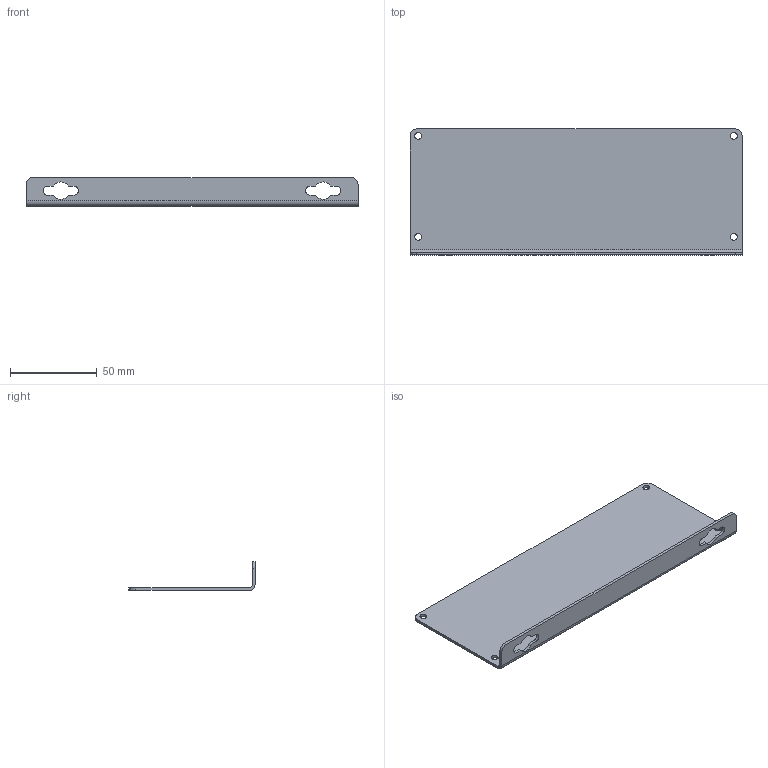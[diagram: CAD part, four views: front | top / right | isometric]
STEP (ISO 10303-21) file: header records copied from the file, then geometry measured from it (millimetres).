
FILE_DESCRIPTION(/* description */ (''),/* implementation_level */ '2;1');
FILE_NAME(/* name */ 'E:\Dutton\Manufacturing\drawings\Web Drawings\1455\1455 Flanges\STEP''s\1455UF.stp',/* time_stamp */ '2022-01-14T09:22:03-05:00',/* author */ ('tfoster'),/* organization */ (''),/* preprocessor_version */ 'ST-DEVELOPER v18.1',/* originating_system */ 'Autodesk Inventor 2022',/* authorisation */ '');
FILE_SCHEMA (('AUTOMOTIVE_DESIGN { 1 0 10303 214 3 1 1 }'));
Length unit declared in the file: millimetre
Products named in the file (1): Flange2
Bounding box: 191 x 72.5 x 16.6 mm (x, y, z)
Volume: 26311.4 mm3; surface area: 33507.1 mm2
Topology: 1 solids, 1 shells, 34 faces, 96 edges, 64 vertices
Faces by surface type: cylinder 18, plane 16
Full cylindrical faces by diameter (mm): 4 x4
Entity records: 1181 total; most frequent: DIRECTION 202, CARTESIAN_POINT 195, ORIENTED_EDGE 192, EDGE_CURVE 96, AXIS2_PLACEMENT_3D 71, VERTEX_POINT 64, LINE 60, VECTOR 60
